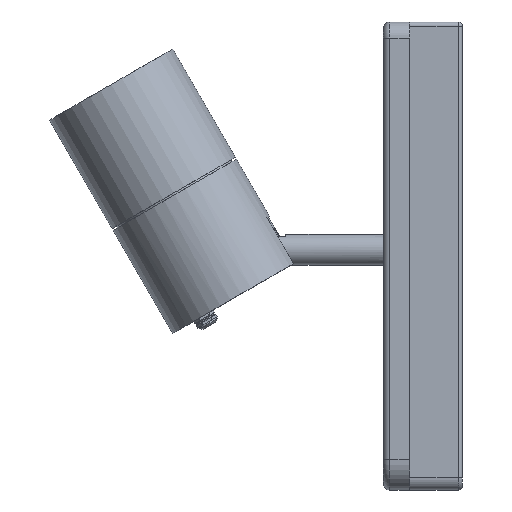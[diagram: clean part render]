
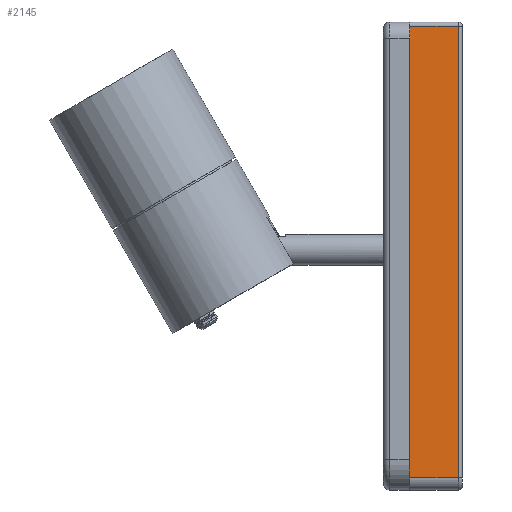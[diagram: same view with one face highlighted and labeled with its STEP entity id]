
A CAD part, top view. The second image highlights one B-rep face of the part: STEP entity #2145.
In plain terms, the highlighted planar face has unit normal (0, 0, 1).
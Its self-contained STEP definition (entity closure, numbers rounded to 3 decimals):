
#88=PLANE('',#2344);
#193=FACE_OUTER_BOUND('',#334,.T.);
#334=EDGE_LOOP('',(#1575,#1576,#1577,#1578));
#476=LINE('',#3337,#628);
#479=LINE('',#3348,#631);
#506=LINE('',#3447,#658);
#507=LINE('',#3450,#659);
#628=VECTOR('',#2608,10.);
#631=VECTOR('',#2623,10.);
#658=VECTOR('',#2738,10.);
#659=VECTOR('',#2743,10.);
#931=VERTEX_POINT('',#3330);
#932=VERTEX_POINT('',#3335);
#934=VERTEX_POINT('',#3346);
#962=VERTEX_POINT('',#3445);
#1135=EDGE_CURVE('',#932,#931,#476,.T.);
#1141=EDGE_CURVE('',#934,#932,#479,.T.);
#1191=EDGE_CURVE('',#962,#934,#506,.T.);
#1192=EDGE_CURVE('',#931,#962,#507,.T.);
#1575=ORIENTED_EDGE('',*,*,#1135,.F.);
#1576=ORIENTED_EDGE('',*,*,#1141,.F.);
#1577=ORIENTED_EDGE('',*,*,#1191,.F.);
#1578=ORIENTED_EDGE('',*,*,#1192,.F.);
#2145=ADVANCED_FACE('',(#193),#88,.T.);
#2344=AXIS2_PLACEMENT_3D('',#3451,#2744,#2745);
#2608=DIRECTION('',(0.,-1.,0.));
#2623=DIRECTION('',(1.,0.,0.));
#2738=DIRECTION('',(0.,1.,0.));
#2743=DIRECTION('',(-1.,0.,0.));
#2744=DIRECTION('center_axis',(0.,0.,1.));
#2745=DIRECTION('ref_axis',(1.,0.,0.));
#3330=CARTESIAN_POINT('',(120.791,899.425,6.053));
#3335=CARTESIAN_POINT('',(120.791,1121.425,6.053));
#3337=CARTESIAN_POINT('',(120.791,893.425,6.053));
#3346=CARTESIAN_POINT('',(96.791,1121.425,6.053));
#3348=CARTESIAN_POINT('',(100.091,1121.425,6.053));
#3445=CARTESIAN_POINT('',(96.791,899.425,6.053));
#3447=CARTESIAN_POINT('',(96.791,893.425,6.053));
#3450=CARTESIAN_POINT('',(100.091,899.425,6.053));
#3451=CARTESIAN_POINT('Origin',(96.791,893.425,6.053));
